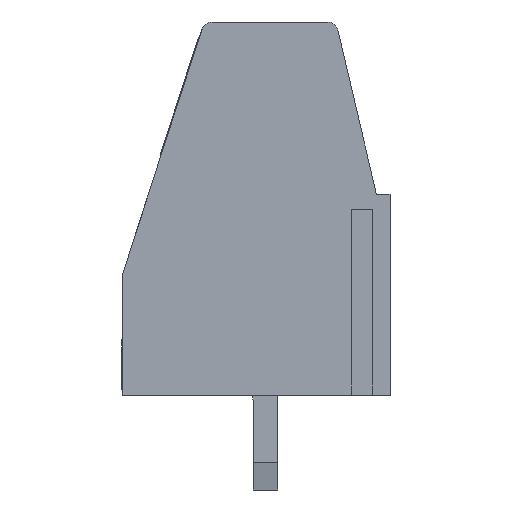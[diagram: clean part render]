
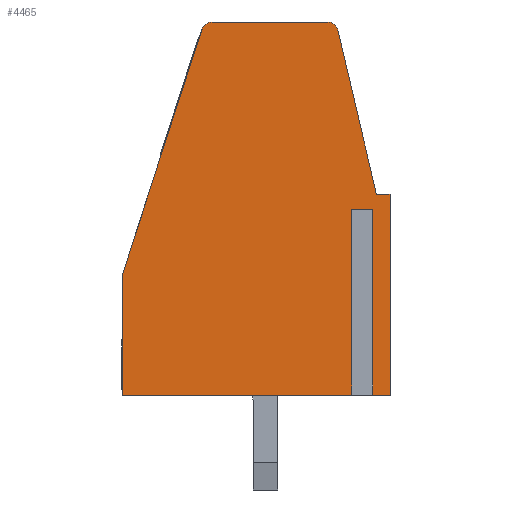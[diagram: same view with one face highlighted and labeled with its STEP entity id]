
A CAD part, left-side view. The second image highlights one B-rep face of the part: STEP entity #4465.
In plain terms, the highlighted planar face has unit normal (-1, 0, 0).
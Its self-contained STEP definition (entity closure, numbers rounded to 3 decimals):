
#4465=ADVANCED_FACE('',(#11234),#11235,.F.);
#4535=VERTEX_POINT('',#11340);
#4537=EDGE_CURVE('',#11342,#4535,#11343,.T.);
#4573=VERTEX_POINT('',#11388);
#4575=EDGE_CURVE('',#11390,#4573,#11391,.T.);
#8645=VERTEX_POINT('',#15494);
#8649=VERTEX_POINT('',#15498);
#8651=EDGE_CURVE('',#8645,#8649,#15500,.T.);
#8739=VERTEX_POINT('',#15588);
#8741=EDGE_CURVE('',#8649,#8739,#15590,.T.);
#8745=EDGE_CURVE('',#8739,#11390,#15594,.T.);
#9035=VERTEX_POINT('',#15884);
#9039=VERTEX_POINT('',#15888);
#9041=EDGE_CURVE('',#9035,#9039,#15890,.T.);
#9069=VERTEX_POINT('',#15918);
#9071=EDGE_CURVE('',#9069,#9035,#15920,.T.);
#9073=EDGE_CURVE('',#9069,#4535,#15922,.T.);
#9075=VERTEX_POINT('',#15924);
#9077=EDGE_CURVE('',#9075,#11342,#15926,.T.);
#9079=EDGE_CURVE('',#4573,#9075,#15928,.T.);
#9081=VERTEX_POINT('',#15930);
#9083=EDGE_CURVE('',#9081,#8645,#15932,.T.);
#9085=VERTEX_POINT('',#15934);
#9087=EDGE_CURVE('',#9085,#9081,#15936,.T.);
#9089=VERTEX_POINT('',#15938);
#9091=EDGE_CURVE('',#9085,#9089,#15940,.T.);
#9093=VERTEX_POINT('',#15942);
#9095=EDGE_CURVE('',#9093,#9089,#15944,.T.);
#9097=EDGE_CURVE('',#9039,#9093,#15946,.T.);
#11234=FACE_OUTER_BOUND('',#18643,.T.);
#11235=PLANE('',#18644);
#11340=CARTESIAN_POINT('',(0.,1.919,13.441));
#11342=VERTEX_POINT('',#18756);
#11343=CIRCLE('',#18757,0.4);
#11388=CARTESIAN_POINT('',(0.,6.551,13.75));
#11390=VERTEX_POINT('',#18820);
#11391=CIRCLE('',#18821,0.4);
#15494=CARTESIAN_POINT('',(0.,9.85,0.0));
#15498=CARTESIAN_POINT('',(0.,9.85,4.49));
#15500=LINE('',#25864,#25865);
#15588=CARTESIAN_POINT('',(0.,6.931,13.474));
#15590=LINE('',#26008,#26009);
#15594=CIRCLE('',#26016,0.4);
#15884=CARTESIAN_POINT('',(0.,0.,7.4));
#15888=CARTESIAN_POINT('',(0.,0.0,0.));
#15890=LINE('',#26486,#26487);
#15918=CARTESIAN_POINT('',(0.,0.5,7.4));
#15920=LINE('',#26534,#26535);
#15922=LINE('',#26538,#26539);
#15924=CARTESIAN_POINT('',(0.,2.308,13.75));
#15926=CIRCLE('',#26544,0.4);
#15928=LINE('',#26547,#26548);
#15930=CARTESIAN_POINT('',(0.,1.232,0.));
#15932=LINE('',#26553,#26554);
#15934=CARTESIAN_POINT('',(0.,1.232,6.85));
#15936=LINE('',#26559,#26560);
#15938=CARTESIAN_POINT('',(0.,0.818,6.85));
#15940=LINE('',#26565,#26566);
#15942=CARTESIAN_POINT('',(0.,0.818,0.));
#15944=LINE('',#26571,#26572);
#15946=LINE('',#26575,#26576);
#18643=EDGE_LOOP('',(#32657,#32658,#32659,#32660,#32661,#32662,#32663,#32664,#32665,#32666,#32667,#32668,#32669,#32670,#32671));
#18644=AXIS2_PLACEMENT_3D('',#32672,#32673,#32674);
#18756=CARTESIAN_POINT('',(0.,2.303,13.75));
#18757=AXIS2_PLACEMENT_3D('',#32984,#32985,#32986);
#18820=CARTESIAN_POINT('',(0.,6.929,13.48));
#18821=AXIS2_PLACEMENT_3D('',#33017,#33018,#33019);
#25864=CARTESIAN_POINT('',(0.,9.85,0.0));
#25865=VECTOR('',#34383,1.0);
#26008=CARTESIAN_POINT('',(0.,9.85,4.49));
#26009=VECTOR('',#34415,1.0);
#26016=AXIS2_PLACEMENT_3D('',#34417,#34418,#34419);
#26486=CARTESIAN_POINT('',(0.,0.,7.4));
#26487=VECTOR('',#34529,1.0);
#26534=CARTESIAN_POINT('',(0.,0.5,7.4));
#26535=VECTOR('',#34538,1.0);
#26538=CARTESIAN_POINT('',(0.,0.5,7.4));
#26539=VECTOR('',#34539,1.0);
#26544=AXIS2_PLACEMENT_3D('',#34540,#34541,#34542);
#26547=CARTESIAN_POINT('',(0.,6.551,13.75));
#26548=VECTOR('',#34543,1.0);
#26553=CARTESIAN_POINT('',(0.,1.232,0.));
#26554=VECTOR('',#34544,1.0);
#26559=CARTESIAN_POINT('',(0.,1.232,6.85));
#26560=VECTOR('',#34545,1.0);
#26565=CARTESIAN_POINT('',(0.,1.232,6.85));
#26566=VECTOR('',#34546,1.0);
#26571=CARTESIAN_POINT('',(0.,0.818,0.));
#26572=VECTOR('',#34547,1.0);
#26575=CARTESIAN_POINT('',(0.,0.0,0.));
#26576=VECTOR('',#34548,1.0);
#32657=ORIENTED_EDGE('',*,*,#9071,.F.);
#32658=ORIENTED_EDGE('',*,*,#9073,.T.);
#32659=ORIENTED_EDGE('',*,*,#4537,.F.);
#32660=ORIENTED_EDGE('',*,*,#9077,.F.);
#32661=ORIENTED_EDGE('',*,*,#9079,.F.);
#32662=ORIENTED_EDGE('',*,*,#4575,.F.);
#32663=ORIENTED_EDGE('',*,*,#8745,.F.);
#32664=ORIENTED_EDGE('',*,*,#8741,.F.);
#32665=ORIENTED_EDGE('',*,*,#8651,.F.);
#32666=ORIENTED_EDGE('',*,*,#9083,.F.);
#32667=ORIENTED_EDGE('',*,*,#9087,.F.);
#32668=ORIENTED_EDGE('',*,*,#9091,.T.);
#32669=ORIENTED_EDGE('',*,*,#9095,.F.);
#32670=ORIENTED_EDGE('',*,*,#9097,.F.);
#32671=ORIENTED_EDGE('',*,*,#9041,.F.);
#32672=CARTESIAN_POINT('',(0.,-0.246,-0.344));
#32673=DIRECTION('',(1.0,0.,0.));
#32674=DIRECTION('',(0.,0.0,-1.0));
#32984=CARTESIAN_POINT('',(0.,2.308,13.35));
#32985=DIRECTION('',(1.0,0.,0.));
#32986=DIRECTION('',(0.,0.0,1.0));
#33017=CARTESIAN_POINT('',(0.,6.551,13.35));
#33018=DIRECTION('',(1.0,0.,0.));
#33019=DIRECTION('',(0.,0.951,0.309));
#34383=DIRECTION('',(0.,0.,1.0));
#34415=DIRECTION('',(0.,-0.309,0.951));
#34417=CARTESIAN_POINT('',(0.,6.551,13.35));
#34418=DIRECTION('',(1.0,0.,0.));
#34419=DIRECTION('',(0.,0.951,0.309));
#34529=DIRECTION('',(0.,0.,-1.0));
#34538=DIRECTION('',(0.,-1.0,0.));
#34539=DIRECTION('',(0.,0.229,0.974));
#34540=CARTESIAN_POINT('',(0.,2.308,13.35));
#34541=DIRECTION('',(1.0,0.,0.));
#34542=DIRECTION('',(0.,0.0,1.0));
#34543=DIRECTION('',(0.,-1.0,0.));
#34544=DIRECTION('',(0.,1.0,0.));
#34545=DIRECTION('',(0.,0.,-1.0));
#34546=DIRECTION('',(0.,-1.0,0.0));
#34547=DIRECTION('',(0.,0.,1.0));
#34548=DIRECTION('',(0.,1.0,0.));
